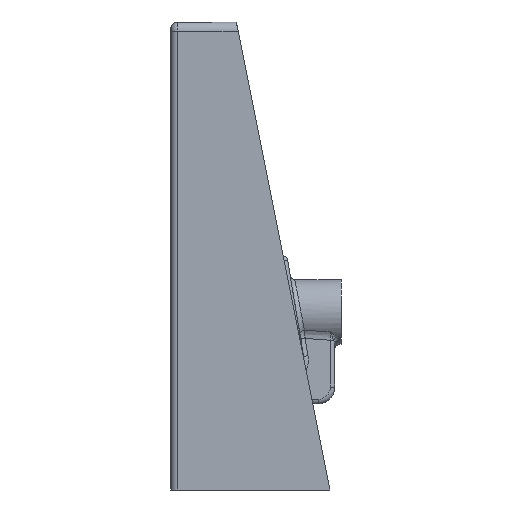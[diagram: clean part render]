
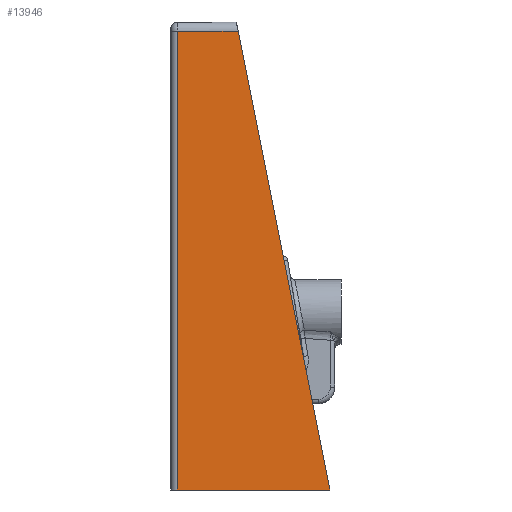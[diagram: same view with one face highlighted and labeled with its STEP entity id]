
A CAD part, left-side view. The second image highlights one B-rep face of the part: STEP entity #13946.
In plain terms, the highlighted planar face has unit normal (-1, 0, 0).
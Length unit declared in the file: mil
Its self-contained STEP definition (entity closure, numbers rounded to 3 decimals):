
#370 = PLANE ( 'NONE',  #4114 ) ;
#758 = CARTESIAN_POINT ( 'NONE',  ( -15748.031, -2834.646, 9448.819 ) ) ;
#804 = ORIENTED_EDGE ( 'NONE', *, *, #2125, .T. ) ;
#2125 = EDGE_CURVE ( 'NONE', #4981, #10496, #6776, .T. ) ;
#3058 = EDGE_CURVE ( 'NONE', #7031, #3232, #6215, .T. ) ;
#3122 = DIRECTION ( 'NONE',  ( 0., 1., 0. ) ) ;
#3136 = CARTESIAN_POINT ( 'NONE',  ( -15748.031, -275.591, 9448.819 ) ) ;
#3232 = VERTEX_POINT ( 'NONE', #3745 ) ;
#3383 = CARTESIAN_POINT ( 'NONE',  ( -15748.031, -275.591, -9842.52 ) ) ;
#3745 = CARTESIAN_POINT ( 'NONE',  ( -15748.031, -275.591, -9842.52 ) ) ;
#3924 = CARTESIAN_POINT ( 'NONE',  ( -15748.031, -6692.913, -9842.52 ) ) ;
#4114 = AXIS2_PLACEMENT_3D ( 'NONE', #9636, #4812, #11787 ) ;
#4297 = ORIENTED_EDGE ( 'NONE', *, *, #3058, .F. ) ;
#4419 = CARTESIAN_POINT ( 'NONE',  ( -15748.031, -6692.913, 9448.819 ) ) ;
#4812 = DIRECTION ( 'NONE',  ( -1., 0., 0. ) ) ;
#4981 = VERTEX_POINT ( 'NONE', #758 ) ;
#5005 = ORIENTED_EDGE ( 'NONE', *, *, #11142, .F. ) ;
#5181 = DIRECTION ( 'NONE',  ( 0., -0.196, -0.981 ) ) ;
#5342 = VECTOR ( 'NONE', #3122, 39370.079 ) ;
#6215 = LINE ( 'NONE', #3924, #7006 ) ;
#6243 = CARTESIAN_POINT ( 'NONE',  ( -15748.031, -6692.913, -9842.52 ) ) ;
#6776 = LINE ( 'NONE', #4419, #5342 ) ;
#7006 = VECTOR ( 'NONE', #13271, 39370.079 ) ;
#7031 = VERTEX_POINT ( 'NONE', #14136 ) ;
#8758 = LINE ( 'NONE', #6243, #13576 ) ;
#9596 = ORIENTED_EDGE ( 'NONE', *, *, #14756, .T. ) ;
#9636 = CARTESIAN_POINT ( 'NONE',  ( -15748.031, -6692.913, -9842.52 ) ) ;
#10272 = EDGE_LOOP ( 'NONE', ( #804, #9596, #4297, #5005 ) ) ;
#10357 = VECTOR ( 'NONE', #13966, 39370.079 ) ;
#10496 = VERTEX_POINT ( 'NONE', #3136 ) ;
#11142 = EDGE_CURVE ( 'NONE', #4981, #7031, #8758, .T. ) ;
#11787 = DIRECTION ( 'NONE',  ( 0., 0., 1. ) ) ;
#13271 = DIRECTION ( 'NONE',  ( 0., 1., 0. ) ) ;
#13576 = VECTOR ( 'NONE', #5181, 39370.079 ) ;
#13883 = LINE ( 'NONE', #3383, #10357 ) ;
#13946 = ADVANCED_FACE ( 'NONE', ( #14484 ), #370, .T. ) ;
#13966 = DIRECTION ( 'NONE',  ( 0., 0., -1. ) ) ;
#14136 = CARTESIAN_POINT ( 'NONE',  ( -15748.031, -6692.913, -9842.52 ) ) ;
#14484 = FACE_OUTER_BOUND ( 'NONE', #10272, .T. ) ;
#14756 = EDGE_CURVE ( 'NONE', #10496, #3232, #13883, .T. ) ;
